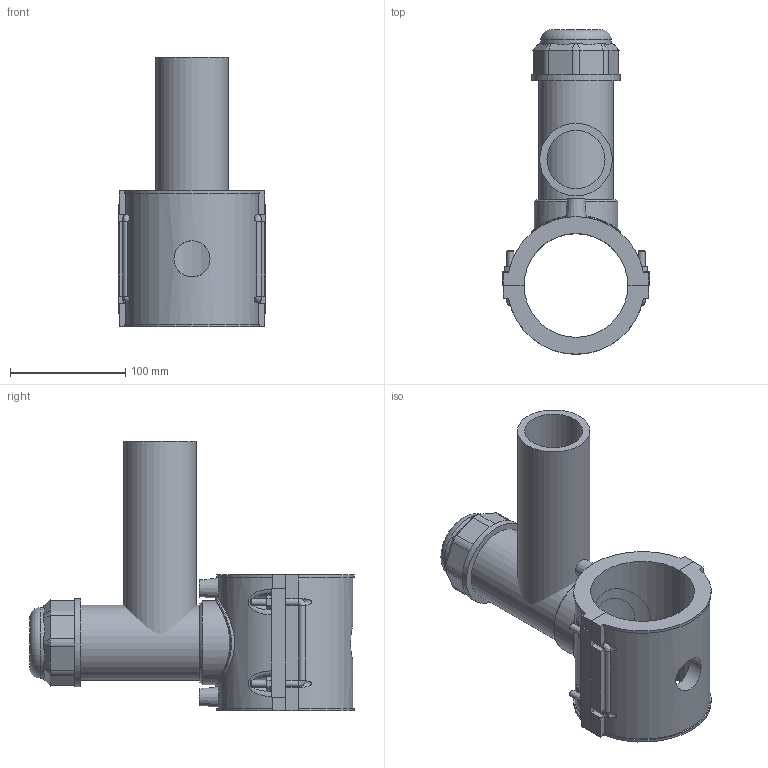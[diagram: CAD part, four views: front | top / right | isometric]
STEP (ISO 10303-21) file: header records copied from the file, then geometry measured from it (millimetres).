
FILE_DESCRIPTION(/* description */ (''),/* implementation_level */ '2;1');
FILE_NAME(/* name */ 'C:\Dropbox\KIMPROJECTS-Inventor 2019\99-16-3568-Processing\ElectroFusion Fittings\4963P4\stp\4963P4090063.stp',/* time_stamp */ '2022-03-17T11:27:23+02:00',/* author */ ('KIM'),/* organization */ (''),/* preprocessor_version */ 'ST-DEVELOPER v17.2',/* originating_system */ 'Autodesk Inventor 2019',/* authorisation */ '');
FILE_SCHEMA (('AUTOMOTIVE_DESIGN { 1 0 10303 214 3 1 1 }'));
Length unit declared in the file: millimetre
Products named in the file (1): 4963P4090063
Bounding box: 128 x 281.67 x 234 mm (x, y, z)
Volume: 1093210.8 mm3; surface area: 241956.1 mm2
Topology: 3 solids, 3 shells, 202 faces, 527 edges, 344 vertices
Faces by surface type: plane 125, cylinder 52, cone 15, bspline 9, torus 1
Full cylindrical faces by diameter (mm): 4 x2, 6 x8, 10 x2, 31.36 x1, 50.4 x1, 53.55 x1, 61.2 x1, 63 x1, 65.025 x1, 72.675 x1, 76.5 x2
Entity records: 7463 total; most frequent: CARTESIAN_POINT 2407, ORIENTED_EDGE 1054, DIRECTION 1023, EDGE_CURVE 527, AXIS2_PLACEMENT_3D 351, VERTEX_POINT 344, LINE 321, VECTOR 321
